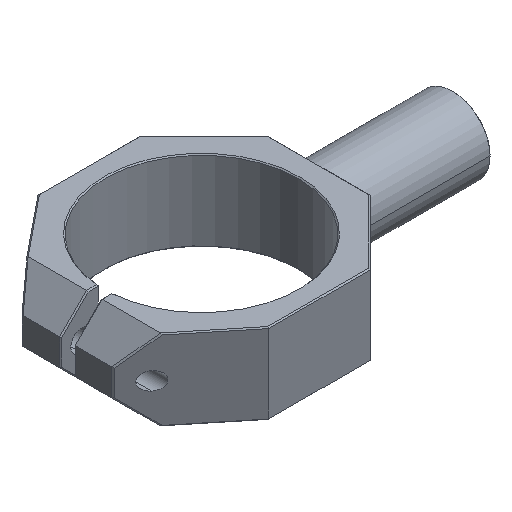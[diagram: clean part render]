
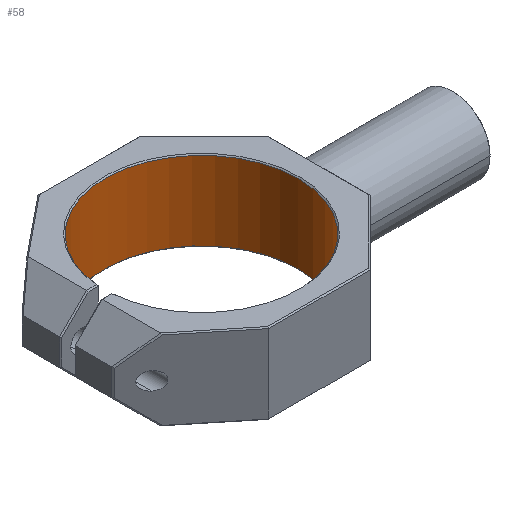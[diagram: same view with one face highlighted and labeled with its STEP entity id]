
A CAD part, isometric view. The second image highlights one B-rep face of the part: STEP entity #58.
In plain terms, the highlighted cylindrical face has radius 18 mm (diameter 36 mm), a partial arc.
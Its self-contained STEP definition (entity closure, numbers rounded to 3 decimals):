
#58 = ADVANCED_FACE ( 'NONE', ( #962 ), #2783, .F. ) ;
#95 = DIRECTION ( 'NONE',  ( -1., 0., 0. ) ) ;
#98 = AXIS2_PLACEMENT_3D ( 'NONE', #1866, #566, #95 ) ;
#221 = VERTEX_POINT ( 'NONE', #2164 ) ;
#223 = ORIENTED_EDGE ( 'NONE', *, *, #2747, .F. ) ;
#236 = DIRECTION ( 'NONE',  ( 1., 0., 0. ) ) ;
#254 = ORIENTED_EDGE ( 'NONE', *, *, #259, .T. ) ;
#259 = EDGE_CURVE ( 'NONE', #933, #1688, #851, .T. ) ;
#296 = EDGE_CURVE ( 'NONE', #364, #2403, #480, .T. ) ;
#364 = VERTEX_POINT ( 'NONE', #2488 ) ;
#390 = CARTESIAN_POINT ( 'NONE',  ( -16.457, 1.25, 15. ) ) ;
#410 = CARTESIAN_POINT ( 'NONE',  ( 19.5, 0., 14.8 ) ) ;
#420 = EDGE_CURVE ( 'NONE', #2403, #933, #1659, .T. ) ;
#424 = AXIS2_PLACEMENT_3D ( 'NONE', #2178, #1977, #834 ) ;
#480 = CIRCLE ( 'NONE', #424, 18. ) ;
#525 = EDGE_LOOP ( 'NONE', ( #254, #2729, #223, #1620, #1660 ) ) ;
#566 = DIRECTION ( 'NONE',  ( 0., 0., -1. ) ) ;
#708 = CIRCLE ( 'NONE', #1731, 18. ) ;
#834 = DIRECTION ( 'NONE',  ( 1., 0., 0. ) ) ;
#851 = LINE ( 'NONE', #390, #1038 ) ;
#933 = VERTEX_POINT ( 'NONE', #2692 ) ;
#962 = FACE_OUTER_BOUND ( 'NONE', #525, .T. ) ;
#1038 = VECTOR ( 'NONE', #1960, 1000. ) ;
#1424 = AXIS2_PLACEMENT_3D ( 'NONE', #2472, #2259, #236 ) ;
#1620 = ORIENTED_EDGE ( 'NONE', *, *, #296, .T. ) ;
#1659 = CIRCLE ( 'NONE', #1424, 18. ) ;
#1660 = ORIENTED_EDGE ( 'NONE', *, *, #420, .T. ) ;
#1688 = VERTEX_POINT ( 'NONE', #1987 ) ;
#1731 = AXIS2_PLACEMENT_3D ( 'NONE', #1816, #1802, #2709 ) ;
#1802 = DIRECTION ( 'NONE',  ( 0., 0., -1. ) ) ;
#1816 = CARTESIAN_POINT ( 'NONE',  ( 1.5, 0., 0.2 ) ) ;
#1866 = CARTESIAN_POINT ( 'NONE',  ( 1.5, 0., 15. ) ) ;
#1960 = DIRECTION ( 'NONE',  ( 0., 0., -1. ) ) ;
#1977 = DIRECTION ( 'NONE',  ( 0., 0., 1. ) ) ;
#1987 = CARTESIAN_POINT ( 'NONE',  ( -16.457, 1.25, 0.2 ) ) ;
#2164 = CARTESIAN_POINT ( 'NONE',  ( -16.457, -1.25, 0.2 ) ) ;
#2178 = CARTESIAN_POINT ( 'NONE',  ( 1.5, 0., 14.8 ) ) ;
#2259 = DIRECTION ( 'NONE',  ( 0., 0., 1. ) ) ;
#2370 = DIRECTION ( 'NONE',  ( 0., 0., -1. ) ) ;
#2397 = CARTESIAN_POINT ( 'NONE',  ( -16.457, -1.25, 15. ) ) ;
#2403 = VERTEX_POINT ( 'NONE', #410 ) ;
#2472 = CARTESIAN_POINT ( 'NONE',  ( 1.5, 0., 14.8 ) ) ;
#2488 = CARTESIAN_POINT ( 'NONE',  ( -16.457, -1.25, 14.8 ) ) ;
#2497 = EDGE_CURVE ( 'NONE', #1688, #221, #708, .T. ) ;
#2577 = VECTOR ( 'NONE', #2370, 1000. ) ;
#2692 = CARTESIAN_POINT ( 'NONE',  ( -16.457, 1.25, 14.8 ) ) ;
#2709 = DIRECTION ( 'NONE',  ( 1., 0., 0. ) ) ;
#2729 = ORIENTED_EDGE ( 'NONE', *, *, #2497, .T. ) ;
#2747 = EDGE_CURVE ( 'NONE', #364, #221, #2830, .T. ) ;
#2783 = CYLINDRICAL_SURFACE ( 'NONE', #98, 18. ) ;
#2830 = LINE ( 'NONE', #2397, #2577 ) ;
